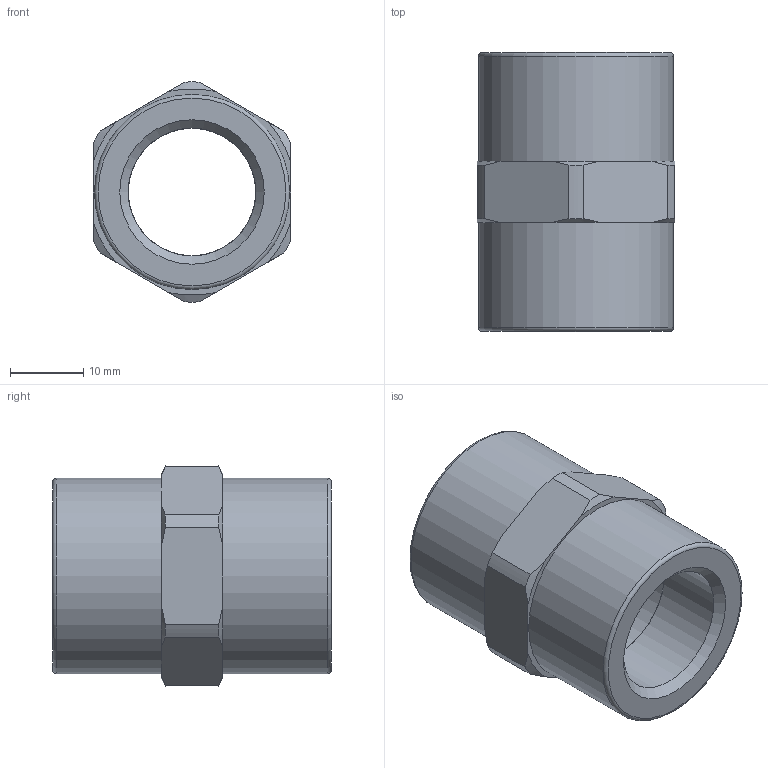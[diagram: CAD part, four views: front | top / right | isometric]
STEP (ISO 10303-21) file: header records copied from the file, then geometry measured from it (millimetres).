
FILE_DESCRIPTION(/* description */ (''),/* implementation_level */ '2;1');
FILE_NAME(/* name */ 'C:/Users/drich/Desktop/C-12 v1.step',/* time_stamp */ '2020-02-09T10:55:47-06:00',/* author */ (''),/* organization */ (''),/* preprocessor_version */ 'ST-DEVELOPER v18',/* originating_system */ 'Autodesk Translation Framework v8.12.0.6',/* authorisation */ '');
FILE_SCHEMA (('AUTOMOTIVE_DESIGN { 1 0 10303 214 3 1 1 }'));
Length unit declared in the file: inch
Products named in the file (1): C-12
Bounding box: 26.97 x 38.1 x 30.09 mm (x, y, z)
Volume: 12676.3 mm3; surface area: 5994.9 mm2
Topology: 1 solids, 1 shells, 39 faces, 107 edges, 74 vertices
Faces by surface type: cone 14, plane 12, cylinder 11, torus 2
Full cylindrical faces by diameter (mm): 17.399 x1, 17.45 x2, 26.67 x2
Entity records: 1299 total; most frequent: CARTESIAN_POINT 269, DIRECTION 215, ORIENTED_EDGE 214, EDGE_CURVE 107, AXIS2_PLACEMENT_3D 92, VERTEX_POINT 74, CIRCLE 52, EDGE_LOOP 45
